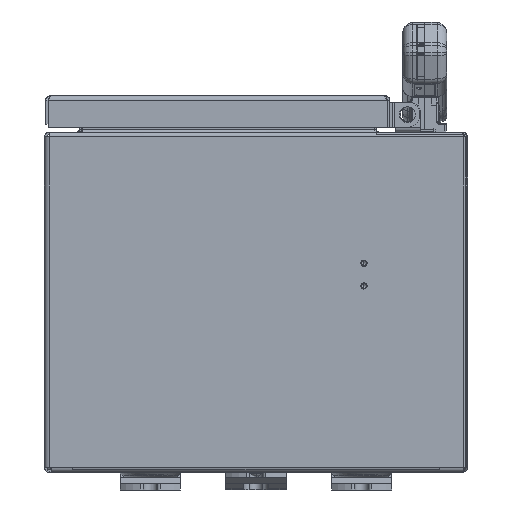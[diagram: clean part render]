
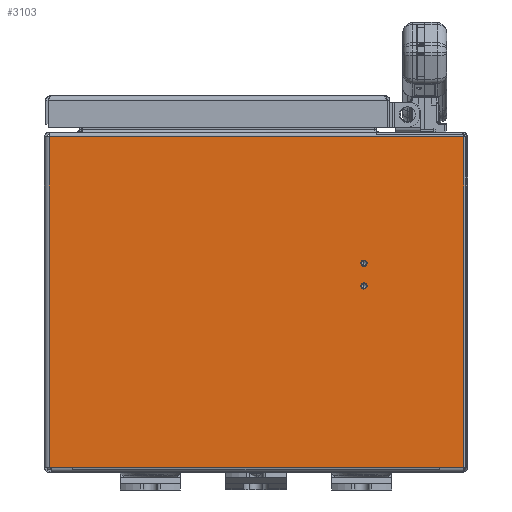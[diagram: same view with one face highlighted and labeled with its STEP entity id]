
A CAD part, front view. The second image highlights one B-rep face of the part: STEP entity #3103.
In plain terms, the highlighted planar face has unit normal (0, -1, 0).
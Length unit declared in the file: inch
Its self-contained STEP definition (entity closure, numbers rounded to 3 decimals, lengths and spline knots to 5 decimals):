
#704=DIRECTION('',(0.,0.,-1.));
#705=VECTOR('',#704,8.203);
#706=CARTESIAN_POINT('',(5.145,-10.0285,0.));
#707=LINE('',#706,#705);
#778=DIRECTION('',(1.,0.,0.));
#779=VECTOR('',#778,0.031);
#780=CARTESIAN_POINT('',(-5.143,-10.0285,-8.203));
#781=LINE('',#780,#779);
#782=DIRECTION('',(-1.,0.,0.));
#783=VECTOR('',#782,10.288);
#784=CARTESIAN_POINT('',(5.145,-10.0285,0.));
#785=LINE('',#784,#783);
#786=CARTESIAN_POINT('',(2.665,-10.0285,-3.698));
#787=DIRECTION('',(0.,1.,0.));
#788=DIRECTION('',(0.,0.,1.));
#789=AXIS2_PLACEMENT_3D('',#786,#787,#788);
#791=CARTESIAN_POINT('',(2.665,-10.0285,-3.698));
#792=DIRECTION('',(0.,1.,0.));
#793=DIRECTION('',(0.,0.,-1.));
#794=AXIS2_PLACEMENT_3D('',#791,#792,#793);
#796=CARTESIAN_POINT('',(2.665,-10.0285,-3.136));
#797=DIRECTION('',(0.,1.,0.));
#798=DIRECTION('',(0.,0.,1.));
#799=AXIS2_PLACEMENT_3D('',#796,#797,#798);
#801=CARTESIAN_POINT('',(2.665,-10.0285,-3.136));
#802=DIRECTION('',(0.,1.,0.));
#803=DIRECTION('',(0.,0.,-1.));
#804=AXIS2_PLACEMENT_3D('',#801,#802,#803);
#806=DIRECTION('',(-1.,0.,0.));
#807=VECTOR('',#806,10.257);
#808=CARTESIAN_POINT('',(5.145,-10.0285,-8.203));
#809=LINE('',#808,#807);
#866=DIRECTION('',(0.,0.,-1.));
#867=VECTOR('',#866,8.203);
#868=CARTESIAN_POINT('',(-5.143,-10.0285,0.));
#869=LINE('',#868,#867);
#1513=CARTESIAN_POINT('',(-5.143,-10.0285,-8.203));
#1514=CARTESIAN_POINT('',(-5.112,-10.0285,-8.203));
#1515=VERTEX_POINT('',#1513);
#1516=VERTEX_POINT('',#1514);
#1584=CARTESIAN_POINT('',(-5.143,-10.0285,0.));
#1585=VERTEX_POINT('',#1584);
#1740=CARTESIAN_POINT('',(5.145,-10.0285,0.));
#1742=VERTEX_POINT('',#1740);
#1749=CARTESIAN_POINT('',(5.145,-10.0285,-8.203));
#1750=VERTEX_POINT('',#1749);
#1772=CARTESIAN_POINT('',(2.665,-10.0285,-3.63738));
#1773=CARTESIAN_POINT('',(2.665,-10.0285,-3.75862));
#1774=VERTEX_POINT('',#1772);
#1775=VERTEX_POINT('',#1773);
#1776=CARTESIAN_POINT('',(2.665,-10.0285,-3.07538));
#1777=CARTESIAN_POINT('',(2.665,-10.0285,-3.19662));
#1778=VERTEX_POINT('',#1776);
#1779=VERTEX_POINT('',#1777);
#3076=CARTESIAN_POINT('',(5.205,-10.0285,0.));
#3077=DIRECTION('',(0.,1.,0.));
#3078=DIRECTION('',(-1.,0.,0.));
#3079=AXIS2_PLACEMENT_3D('',#3076,#3077,#3078);
#3080=PLANE('',#3079);
#3081=ORIENTED_EDGE('',*,*,#2925,.T.);
#3083=ORIENTED_EDGE('',*,*,#3082,.T.);
#3084=ORIENTED_EDGE('',*,*,#3070,.F.);
#3086=ORIENTED_EDGE('',*,*,#3085,.F.);
#3088=ORIENTED_EDGE('',*,*,#3087,.F.);
#3089=EDGE_LOOP('',(#3081,#3083,#3084,#3086,#3088));
#3090=FACE_OUTER_BOUND('',#3089,.F.);
#3092=ORIENTED_EDGE('',*,*,#3091,.F.);
#3094=ORIENTED_EDGE('',*,*,#3093,.F.);
#3095=EDGE_LOOP('',(#3092,#3094));
#3096=FACE_BOUND('',#3095,.F.);
#3098=ORIENTED_EDGE('',*,*,#3097,.F.);
#3100=ORIENTED_EDGE('',*,*,#3099,.F.);
#3101=EDGE_LOOP('',(#3098,#3100));
#3102=FACE_BOUND('',#3101,.F.);
#3103=ADVANCED_FACE('',(#3090,#3096,#3102),#3080,.F.);
#790=CIRCLE('',#789,0.06062);
#795=CIRCLE('',#794,0.06062);
#800=CIRCLE('',#799,0.06062);
#805=CIRCLE('',#804,0.06062);
#2925=EDGE_CURVE('',#1742,#1750,#707,.T.);
#3070=EDGE_CURVE('',#1515,#1516,#781,.T.);
#3082=EDGE_CURVE('',#1750,#1516,#809,.T.);
#3085=EDGE_CURVE('',#1585,#1515,#869,.T.);
#3087=EDGE_CURVE('',#1742,#1585,#785,.T.);
#3091=EDGE_CURVE('',#1774,#1775,#790,.T.);
#3093=EDGE_CURVE('',#1775,#1774,#795,.T.);
#3097=EDGE_CURVE('',#1778,#1779,#800,.T.);
#3099=EDGE_CURVE('',#1779,#1778,#805,.T.);
